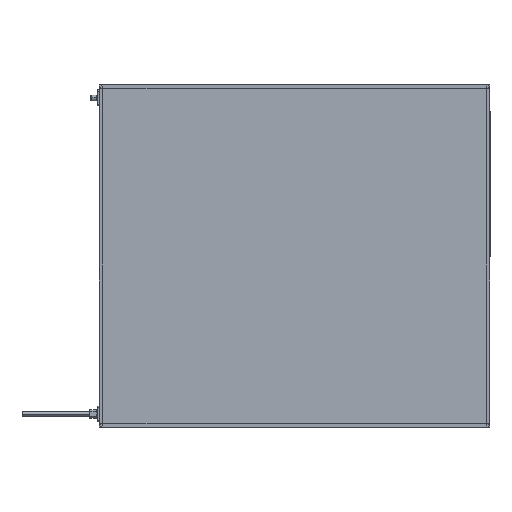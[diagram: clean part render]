
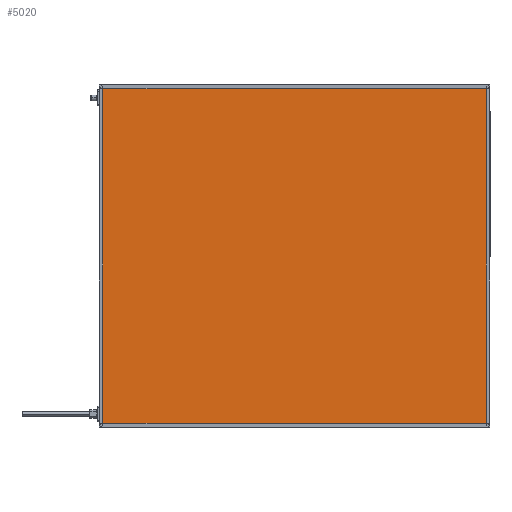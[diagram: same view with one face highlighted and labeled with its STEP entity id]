
A CAD part, top view. The second image highlights one B-rep face of the part: STEP entity #5020.
In plain terms, the highlighted planar face has unit normal (0, 0, 1).
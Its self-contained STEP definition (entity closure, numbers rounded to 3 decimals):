
#562 = VERTEX_POINT ( 'NONE', #952 ) ;
#952 = CARTESIAN_POINT ( 'NONE',  ( 796., 4., 41.85 ) ) ;
#1124 = CARTESIAN_POINT ( 'NONE',  ( 0., 0., 41.85 ) ) ;
#1507 = LINE ( 'NONE', #14093, #16685 ) ;
#2258 = DIRECTION ( 'NONE',  ( 0., -1., 0. ) ) ;
#2624 = CARTESIAN_POINT ( 'NONE',  ( 4., 0., 41.85 ) ) ;
#2695 = CARTESIAN_POINT ( 'NONE',  ( 0., 4., 41.85 ) ) ;
#2784 = LINE ( 'NONE', #2695, #10050 ) ;
#3028 = VECTOR ( 'NONE', #2258, 1000. ) ;
#3956 = DIRECTION ( 'NONE',  ( -1., 0., 0. ) ) ;
#4193 = CARTESIAN_POINT ( 'NONE',  ( 4., 696., 41.85 ) ) ;
#4239 = DIRECTION ( 'NONE',  ( 1., 0., 0. ) ) ;
#5020 = ADVANCED_FACE ( 'NONE', ( #7979 ), #10361, .F. ) ;
#5832 = ORIENTED_EDGE ( 'NONE', *, *, #10301, .T. ) ;
#7894 = CARTESIAN_POINT ( 'NONE',  ( 796., 696., 41.85 ) ) ;
#7979 = FACE_OUTER_BOUND ( 'NONE', #9290, .T. ) ;
#8035 = ORIENTED_EDGE ( 'NONE', *, *, #9959, .T. ) ;
#8243 = LINE ( 'NONE', #15257, #16407 ) ;
#9290 = EDGE_LOOP ( 'NONE', ( #8035, #5832, #13282, #15401 ) ) ;
#9959 = EDGE_CURVE ( 'NONE', #562, #17151, #1507, .T. ) ;
#10050 = VECTOR ( 'NONE', #4239, 1000. ) ;
#10301 = EDGE_CURVE ( 'NONE', #17151, #13440, #8243, .T. ) ;
#10361 = PLANE ( 'NONE',  #11363 ) ;
#11096 = DIRECTION ( 'NONE',  ( 0., 1., 0. ) ) ;
#11363 = AXIS2_PLACEMENT_3D ( 'NONE', #1124, #13533, #3956 ) ;
#12732 = EDGE_CURVE ( 'NONE', #13440, #13952, #16214, .T. ) ;
#13282 = ORIENTED_EDGE ( 'NONE', *, *, #12732, .T. ) ;
#13440 = VERTEX_POINT ( 'NONE', #4193 ) ;
#13533 = DIRECTION ( 'NONE',  ( 0., 0., -1. ) ) ;
#13952 = VERTEX_POINT ( 'NONE', #17558 ) ;
#14093 = CARTESIAN_POINT ( 'NONE',  ( 796., 0., 41.85 ) ) ;
#14163 = EDGE_CURVE ( 'NONE', #13952, #562, #2784, .T. ) ;
#15257 = CARTESIAN_POINT ( 'NONE',  ( 0., 696., 41.85 ) ) ;
#15401 = ORIENTED_EDGE ( 'NONE', *, *, #14163, .T. ) ;
#16214 = LINE ( 'NONE', #2624, #3028 ) ;
#16407 = VECTOR ( 'NONE', #16624, 1000. ) ;
#16624 = DIRECTION ( 'NONE',  ( -1., 0., 0. ) ) ;
#16685 = VECTOR ( 'NONE', #11096, 1000. ) ;
#17151 = VERTEX_POINT ( 'NONE', #7894 ) ;
#17558 = CARTESIAN_POINT ( 'NONE',  ( 4., 4., 41.85 ) ) ;
